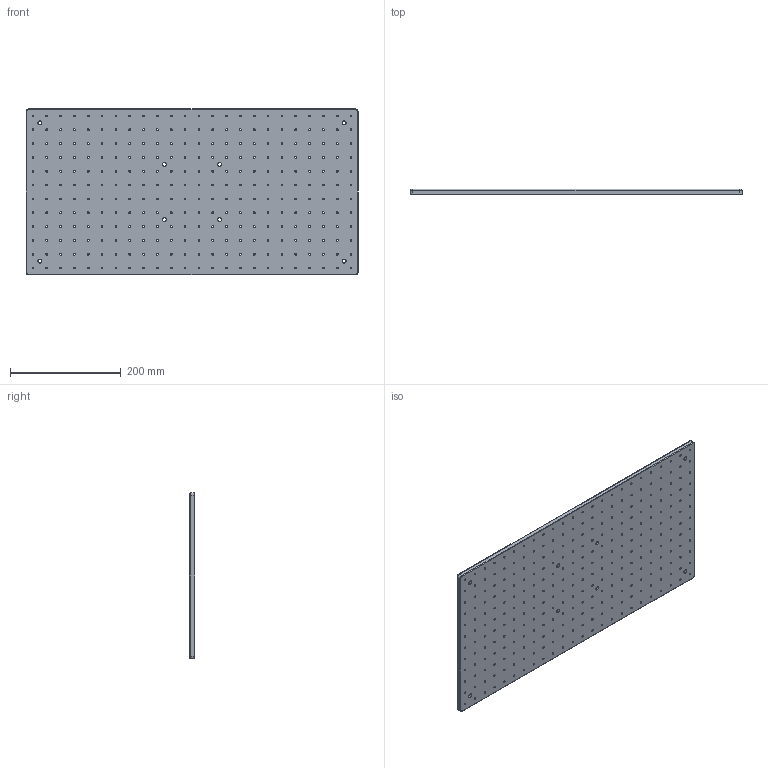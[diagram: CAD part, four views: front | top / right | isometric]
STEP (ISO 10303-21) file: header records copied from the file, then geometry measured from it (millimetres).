
FILE_DESCRIPTION (( 'STEP AP203' ), '1' );
FILE_NAME ('M-PNB-3060-10.step', '2017-01-10T01:12:35', ( '¦K¬P' ), ( '' ), 'SwSTEP 2.0', 'SolidWorks 2012', '' );
FILE_SCHEMA (( 'CONFIG_CONTROL_DESIGN' ));
Length unit declared in the file: millimetre
Products named in the file (1): M-PNB-3060-10
Bounding box: 600 x 10 x 300 mm (x, y, z)
Volume: 1765342.8 mm3; surface area: 401509.4 mm2
Topology: 1 solids, 1 shells, 338 faces, 968 edges, 640 vertices
Faces by surface type: cylinder 316, plane 14, torus 8
Full cylindrical faces by diameter (mm): 3.3 x288, 7 x8, 11 x8
Entity records: 11165 total; most frequent: DIRECTION 1982, CARTESIAN_POINT 1643, ORIENTED_EDGE 1328, EDGE_LOOP 1242, AXIS2_PLACEMENT_3D 979, EDGE_CURVE 664, FACE_OUTER_BOUND 642, VERTEX_POINT 640
